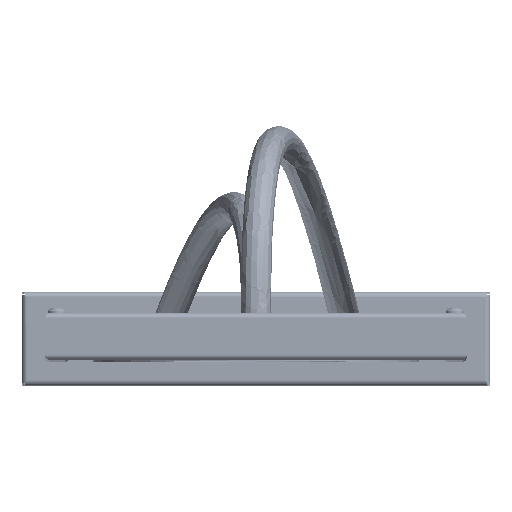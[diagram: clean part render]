
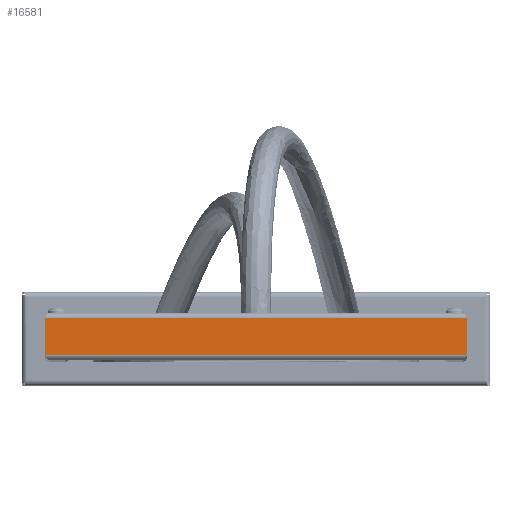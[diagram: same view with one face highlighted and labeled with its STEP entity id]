
A CAD part, top view. The second image highlights one B-rep face of the part: STEP entity #16581.
In plain terms, the highlighted planar face has unit normal (0, 0, 1) as drawn and (1, 0, 0) by its records, which use the part's own axes.
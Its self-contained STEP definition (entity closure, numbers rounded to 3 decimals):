
#16190=DIRECTION('',(0.,-1.,0.));
#16191=VECTOR('',#16190,180.);
#16192=CARTESIAN_POINT('',(300.,175.,-18.));
#16193=LINE('',#16192,#16191);
#16210=DIRECTION('',(0.,0.,-1.));
#16211=VECTOR('',#16210,16.);
#16212=CARTESIAN_POINT('',(300.,-5.,-2.));
#16213=LINE('',#16212,#16211);
#16278=DIRECTION('',(0.,0.,-1.));
#16279=VECTOR('',#16278,16.);
#16280=CARTESIAN_POINT('',(300.,175.,-2.));
#16281=LINE('',#16280,#16279);
#16330=DIRECTION('',(0.,1.,0.));
#16331=VECTOR('',#16330,180.);
#16332=CARTESIAN_POINT('',(300.,-5.,-2.));
#16333=LINE('',#16332,#16331);
#16510=CARTESIAN_POINT('',(300.,-5.,-2.));
#16511=CARTESIAN_POINT('',(300.,-5.,-18.));
#16512=VERTEX_POINT('',#16510);
#16513=VERTEX_POINT('',#16511);
#16514=CARTESIAN_POINT('',(300.,175.,-18.));
#16515=VERTEX_POINT('',#16514);
#16516=CARTESIAN_POINT('',(300.,175.,-2.));
#16517=VERTEX_POINT('',#16516);
#16567=CARTESIAN_POINT('',(300.,175.,-18.));
#16568=DIRECTION('',(1.,0.,0.));
#16569=DIRECTION('',(0.,0.,-1.));
#16570=AXIS2_PLACEMENT_3D('',#16567,#16568,#16569);
#16571=PLANE('',#16570);
#16573=ORIENTED_EDGE('',*,*,#16572,.F.);
#16575=ORIENTED_EDGE('',*,*,#16574,.T.);
#16577=ORIENTED_EDGE('',*,*,#16576,.T.);
#16578=ORIENTED_EDGE('',*,*,#16557,.T.);
#16579=EDGE_LOOP('',(#16573,#16575,#16577,#16578));
#16580=FACE_OUTER_BOUND('',#16579,.F.);
#16581=ADVANCED_FACE('',(#16580),#16571,.T.);
#16557=EDGE_CURVE('',#16515,#16513,#16193,.T.);
#16572=EDGE_CURVE('',#16512,#16513,#16213,.T.);
#16574=EDGE_CURVE('',#16512,#16517,#16333,.T.);
#16576=EDGE_CURVE('',#16517,#16515,#16281,.T.);
